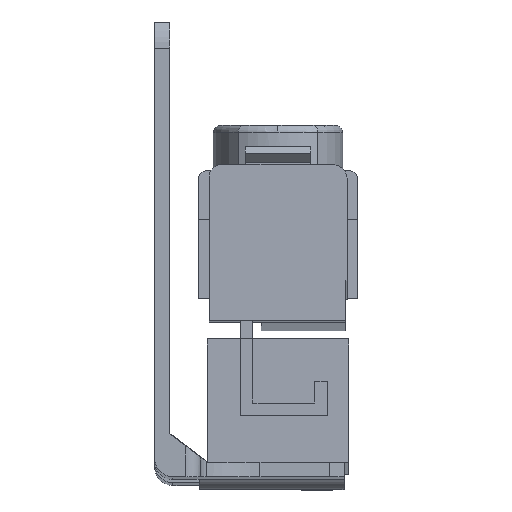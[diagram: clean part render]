
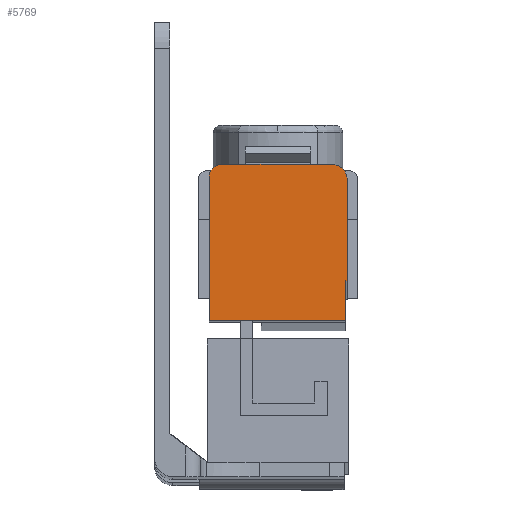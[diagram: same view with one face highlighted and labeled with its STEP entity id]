
A CAD part, front view. The second image highlights one B-rep face of the part: STEP entity #5769.
In plain terms, the highlighted planar face has unit normal (0, -1, 0.005).
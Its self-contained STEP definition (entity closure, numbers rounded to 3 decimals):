
#338 = EDGE_CURVE ( 'NONE', #3525, #3524, #3148, .T. ) ;
#341 = EDGE_CURVE ( 'NONE', #3524, #3526, #3155, .T. ) ;
#345 = EDGE_CURVE ( 'NONE', #3526, #3529, #3161, .T. ) ;
#348 = EDGE_CURVE ( 'NONE', #3529, #3530, #3168, .T. ) ;
#352 = EDGE_CURVE ( 'NONE', #3530, #3533, #3174, .T. ) ;
#353 = EDGE_CURVE ( 'NONE', #3534, #3525, #3176, .T. ) ;
#356 = EDGE_CURVE ( 'NONE', #3533, #3536, #3182, .T. ) ;
#357 = EDGE_CURVE ( 'NONE', #3536, #3534, #3184, .T. ) ;
#592 = AXIS2_PLACEMENT_3D ( 'NONE', #2547, #2548, #2549 ) ;
#593 = AXIS2_PLACEMENT_3D ( 'NONE', #2562, #2563, #2564 ) ;
#715 = AXIS2_PLACEMENT_3D ( 'NONE', #5261, #5262, #5263 ) ;
#1004 = EDGE_LOOP ( 'NONE', ( #1232, #1231, #1230, #1229, #1228, #1227, #1226, #1225 ) ) ;
#1225 = ORIENTED_EDGE ( 'NONE', *, *, #353, .T. ) ;
#1226 = ORIENTED_EDGE ( 'NONE', *, *, #357, .T. ) ;
#1227 = ORIENTED_EDGE ( 'NONE', *, *, #356, .T. ) ;
#1228 = ORIENTED_EDGE ( 'NONE', *, *, #352, .T. ) ;
#1229 = ORIENTED_EDGE ( 'NONE', *, *, #348, .T. ) ;
#1230 = ORIENTED_EDGE ( 'NONE', *, *, #345, .T. ) ;
#1231 = ORIENTED_EDGE ( 'NONE', *, *, #341, .T. ) ;
#1232 = ORIENTED_EDGE ( 'NONE', *, *, #338, .T. ) ;
#2541 = CARTESIAN_POINT ( 'NONE',  ( 26.5, -22.785, -6.722 ) ) ;
#2542 = DIRECTION ( 'NONE',  ( 0., 0.005, 1. ) ) ;
#2547 = CARTESIAN_POINT ( 'NONE',  ( 24.45, -22.785, -6.722 ) ) ;
#2548 = DIRECTION ( 'NONE',  ( 0., -1., 0.005 ) ) ;
#2549 = DIRECTION ( 'NONE',  ( 0., 0.005, 1. ) ) ;
#2556 = CARTESIAN_POINT ( 'NONE',  ( 9.25, -22.774, -4.672 ) ) ;
#2557 = DIRECTION ( 'NONE',  ( -1., 0., 0. ) ) ;
#2562 = CARTESIAN_POINT ( 'NONE',  ( 9.25, -22.783, -6.422 ) ) ;
#2563 = DIRECTION ( 'NONE',  ( 0., -1., 0.005 ) ) ;
#2564 = DIRECTION ( 'NONE',  ( 0., -0.005, -1. ) ) ;
#2571 = CARTESIAN_POINT ( 'NONE',  ( 7.5, -22.783, -6.422 ) ) ;
#2572 = DIRECTION ( 'NONE',  ( 0., -0.005, -1. ) ) ;
#2573 = CARTESIAN_POINT ( 'NONE',  ( 7.5, -22.858, -20.672 ) ) ;
#2574 = DIRECTION ( 'NONE',  ( 1., 0., 0. ) ) ;
#2579 = CARTESIAN_POINT ( 'NONE',  ( 26.25, -22.887, -26.172 ) ) ;
#2580 = DIRECTION ( 'NONE',  ( 1., 0., 0. ) ) ;
#2581 = CARTESIAN_POINT ( 'NONE',  ( 26.25, -22.887, -26.172 ) ) ;
#2582 = DIRECTION ( 'NONE',  ( 0., 0.005, 1. ) ) ;
#3148 = LINE ( 'NONE', #2541, #3149 ) ;
#3149 = VECTOR ( 'NONE', #2542, 1000. ) ;
#3155 = CIRCLE ( 'NONE', #592, 2.05 ) ;
#3161 = LINE ( 'NONE', #2556, #3162 ) ;
#3162 = VECTOR ( 'NONE', #2557, 1000. ) ;
#3168 = CIRCLE ( 'NONE', #593, 1.75 ) ;
#3174 = LINE ( 'NONE', #2571, #3175 ) ;
#3175 = VECTOR ( 'NONE', #2572, 1000. ) ;
#3176 = LINE ( 'NONE', #2573, #3177 ) ;
#3177 = VECTOR ( 'NONE', #2574, 1000. ) ;
#3182 = LINE ( 'NONE', #2579, #3183 ) ;
#3183 = VECTOR ( 'NONE', #2580, 1000. ) ;
#3184 = LINE ( 'NONE', #2581, #3185 ) ;
#3185 = VECTOR ( 'NONE', #2582, 1000. ) ;
#3524 = VERTEX_POINT ( 'NONE', #4840 ) ;
#3525 = VERTEX_POINT ( 'NONE', #4841 ) ;
#3526 = VERTEX_POINT ( 'NONE', #4842 ) ;
#3529 = VERTEX_POINT ( 'NONE', #4845 ) ;
#3530 = VERTEX_POINT ( 'NONE', #4846 ) ;
#3533 = VERTEX_POINT ( 'NONE', #4849 ) ;
#3534 = VERTEX_POINT ( 'NONE', #4850 ) ;
#3536 = VERTEX_POINT ( 'NONE', #4852 ) ;
#4182 = FACE_OUTER_BOUND ( 'NONE', #1004, .T. ) ;
#4840 = CARTESIAN_POINT ( 'NONE',  ( 26.5, -22.785, -6.722 ) ) ;
#4841 = CARTESIAN_POINT ( 'NONE',  ( 26.5, -22.858, -20.672 ) ) ;
#4842 = CARTESIAN_POINT ( 'NONE',  ( 24.45, -22.774, -4.672 ) ) ;
#4845 = CARTESIAN_POINT ( 'NONE',  ( 9.25, -22.774, -4.672 ) ) ;
#4846 = CARTESIAN_POINT ( 'NONE',  ( 7.5, -22.783, -6.422 ) ) ;
#4849 = CARTESIAN_POINT ( 'NONE',  ( 7.5, -22.887, -26.172 ) ) ;
#4850 = CARTESIAN_POINT ( 'NONE',  ( 26.25, -22.858, -20.672 ) ) ;
#4852 = CARTESIAN_POINT ( 'NONE',  ( 26.25, -22.887, -26.172 ) ) ;
#5260 = PLANE ( 'NONE',  #715 ) ;
#5261 = CARTESIAN_POINT ( 'NONE',  ( 9.25, -22.783, -6.422 ) ) ;
#5262 = DIRECTION ( 'NONE',  ( 0., -1., 0.005 ) ) ;
#5263 = DIRECTION ( 'NONE',  ( 0., -0.005, -1. ) ) ;
#5769 = ADVANCED_FACE ( 'NONE', ( #4182 ), #5260, .T. ) ;
